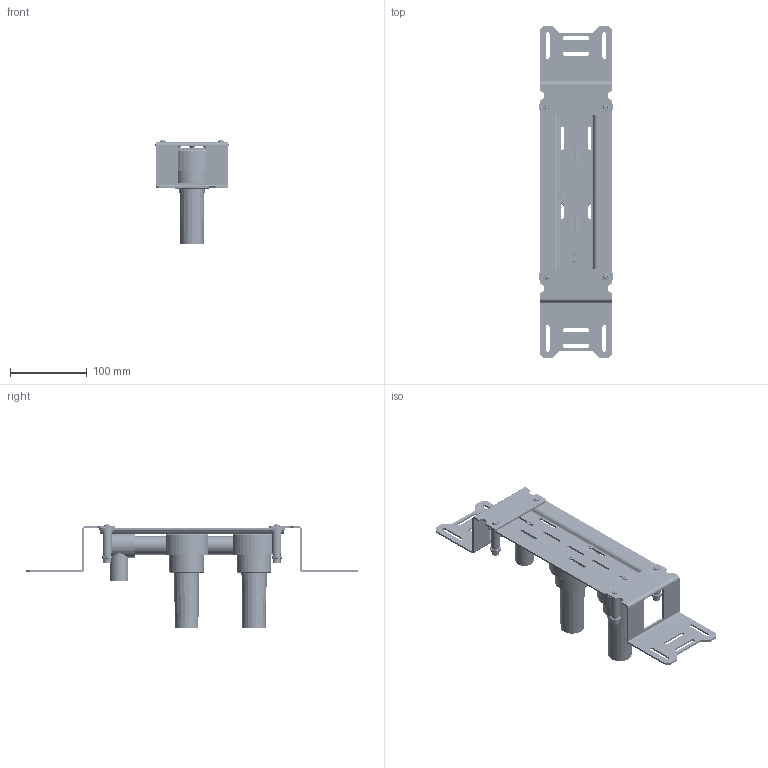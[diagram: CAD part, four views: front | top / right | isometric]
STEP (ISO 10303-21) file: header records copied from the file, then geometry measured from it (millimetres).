
FILE_DESCRIPTION((''),'2;1');
FILE_NAME('ASM0008_ASM','2021-01-13T',('扢數'),(''),'PRO/ENGINEER BY PARAMETRIC TECHNOLOGY CORPORATION, 2015240','PRO/ENGINEER BY PARAMETRIC TECHNOLOGY CORPORATION, 2015240','');
FILE_SCHEMA(('CONFIG_CONTROL_DESIGN'));
Products named in the file (31): PRT0036_AF6; PRT0035_AF6; PRT0037_AF0; PRT0039_AF6; PRT0041_AF6; PRT0042_AF6; PRT0046_AF6; PRT0047_AF6; 41X2_AF6; M4--_AF1; PRT0007; PRT0008; PRT0041; PRT0035; PRT0042; PRT0039; M4--; PRT0037; K; ASM0001_ASM; ASM0009_AF4_ASM; STCT0176-XX_39_AF0; STCT0175-XX_25_AF0; STCT0175-XX_25_AF1; STMB0313-XX_8; STST0094-XX_6; MSBY0030-XX_ASM_29_AF0_ASM; M4-_AF0; M4-; GAI-01; ASM0008_ASM
Assembly tree (41 placements, depth 4):
  ASM0008_ASM
    ASM0009_AF4_ASM
      PRT0036_AF6
      PRT0035_AF6
      PRT0037_AF0
      PRT0039_AF6
      PRT0041_AF6
      PRT0042_AF6
      PRT0046_AF6
      PRT0047_AF6
      41X2_AF6
      M4--_AF1
      PRT0007
      ASM0001_ASM
        PRT0008
        PRT0041
        PRT0035
        PRT0042
        PRT0039
        M4--
        PRT0037
        K
      K  x2
    MSBY0030-XX_ASM_29_AF0_ASM
      STCT0176-XX_39_AF0
      STCT0175-XX_25_AF0
      STCT0175-XX_25_AF1
      STMB0313-XX_8  x4
      STST0094-XX_6  x4
    M4-_AF0
    M4-  x3
    GAI-01  x2
Bounding box: 97 x 433 x 135 mm (x, y, z)
Volume: 423723 mm3; surface area: 268870.6 mm2
Topology: 38 solids, 42 shells, 1980 faces, 5291 edges, 3488 vertices
Faces by surface type: cylinder 995, plane 456, cone 272, bspline 184, torus 73
Entity records: 114595 total; most frequent: CARTESIAN_POINT 74919, ORIENTED_EDGE 8702, DIRECTION 7324, EDGE_CURVE 4359, VERTEX_POINT 2854, AXIS2_PLACEMENT_3D 2795, EDGE_LOOP 1827, VECTOR 1734
